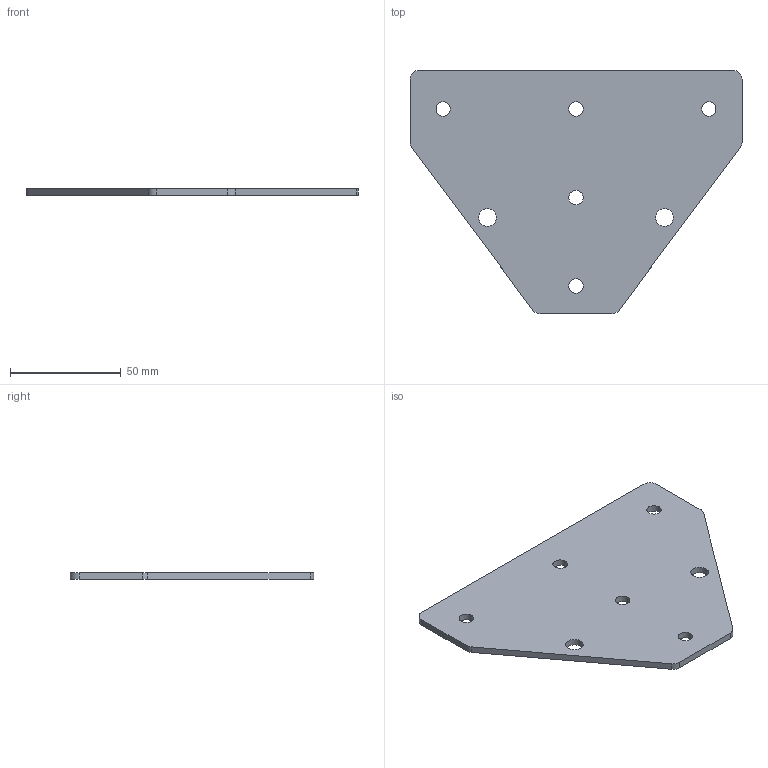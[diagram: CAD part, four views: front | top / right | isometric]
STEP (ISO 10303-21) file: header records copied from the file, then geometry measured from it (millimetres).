
FILE_DESCRIPTION(('STEP AP203'), '1');
FILE_NAME('À00804.34040 _ Ò-ñîåäèíèòåëü', '', ('UNSPECIFIED'), ('UNSPECIFIED'), 'C3D Converter', 'C3D Toolkit', '');
FILE_SCHEMA(('CONFIG_CONTROL_DESIGN'));
Length unit declared in the file: millimetre
Products named in the file (1): А00804.34040
Bounding box: 150 x 110 x 3 mm (x, y, z)
Volume: 35708.6 mm3; surface area: 25582.6 mm2
Topology: 1 solids, 1 shells, 21 faces, 57 edges, 38 vertices
Faces by surface type: cylinder 13, plane 8
Full cylindrical faces by diameter (mm): 6.5 x5, 8 x2
Entity records: 873 total; most frequent: DIRECTION 120, CARTESIAN_POINT 110, ORIENTED_EDGE 100, EDGE_CURVE 50, AXIS2_PLACEMENT_3D 48, EDGE_LOOP 42, VERTEX_POINT 38, FACE_BOUND 28
